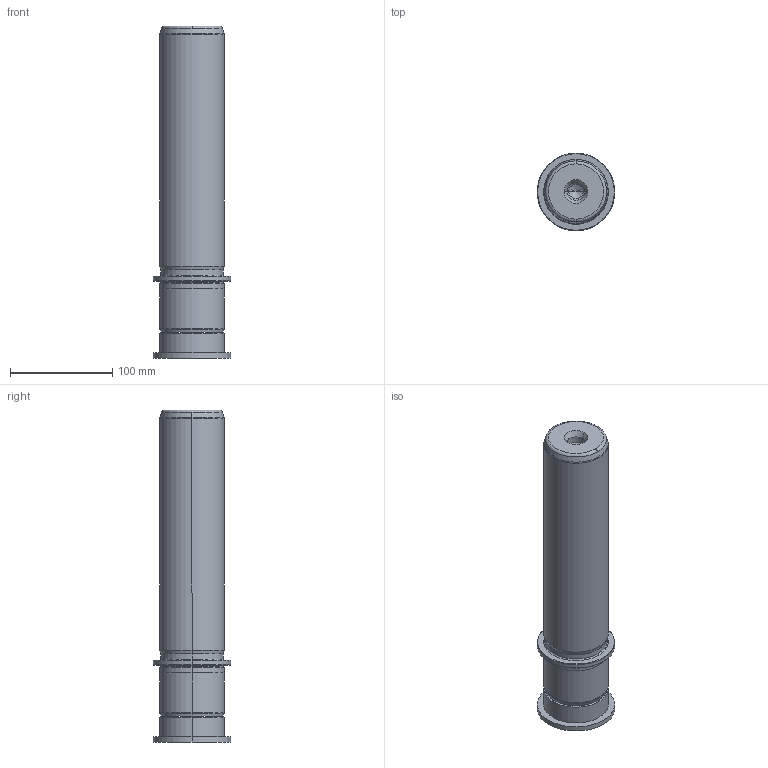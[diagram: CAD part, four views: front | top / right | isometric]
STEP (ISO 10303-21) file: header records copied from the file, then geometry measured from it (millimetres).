
FILE_DESCRIPTION((''),'2;1');
FILE_NAME('P22_063_250.stp','2009-02-06T15:52:05',(''),(''),'Mechanical Desktop 2009','Mechanical Desktop 2009',', , ');
FILE_SCHEMA(('CONFIG_CONTROL_DESIGN'));
Length unit declared in the file: millimetre
Products named in the file (2): Product; blmdl1
Assembly tree (1 placements, depth 2):
  Product
    blmdl1
Bounding box: 76 x 76 x 325 mm (x, y, z)
Volume: 1006835.5 mm3; surface area: 91640.6 mm2
Topology: 3 solids, 3 shells, 99 faces, 237 edges, 149 vertices
Faces by surface type: cylinder 32, cone 28, plane 19, torus 10, bspline 10
Entity records: 3419 total; most frequent: CARTESIAN_POINT 923, DIRECTION 570, ORIENTED_EDGE 466, AXIS2_PLACEMENT_3D 246, EDGE_CURVE 233, CIRCLE 155, VERTEX_POINT 149, EDGE_LOOP 110
